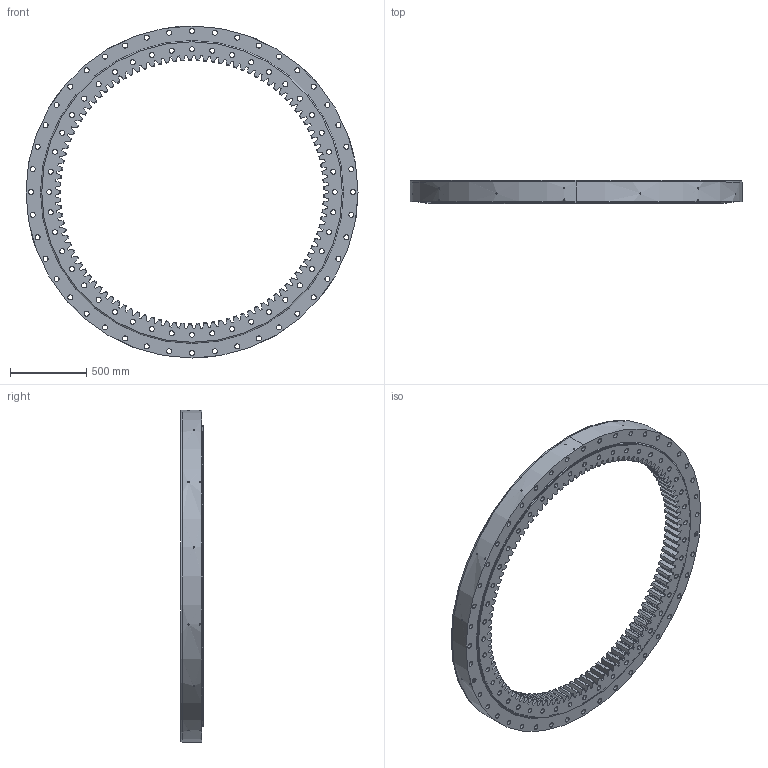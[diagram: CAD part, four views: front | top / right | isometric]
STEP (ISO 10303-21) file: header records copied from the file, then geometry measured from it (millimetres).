
FILE_DESCRIPTION (( 'STEP AP214' ), '1' );
FILE_NAME ('SM3325-1-2181AA.STEP', '2022-11-24T07:49:57', ( '' ), ( '' ), 'SwSTEP 2.0', 'SolidWorks 2020', '' );
FILE_SCHEMA (( 'AUTOMOTIVE_DESIGN' ));
Length unit declared in the file: millimetre
Products named in the file (1): SM3325-1-2181AA
Bounding box: 2181 x 150 x 2181 mm (x, y, z)
Volume: 160868943.7 mm3; surface area: 9564009 mm2
Topology: 5 solids, 5 shells, 1139 faces, 3272 edges, 2178 vertices
Faces by surface type: plane 482, cylinder 427, cone 230
Entity records: 41960 total; most frequent: CARTESIAN_POINT 12532, ORIENTED_EDGE 6544, DIRECTION 5540, EDGE_CURVE 3272, VERTEX_POINT 2178, AXIS2_PLACEMENT_3D 2114, EDGE_LOOP 1414, LINE 1312
